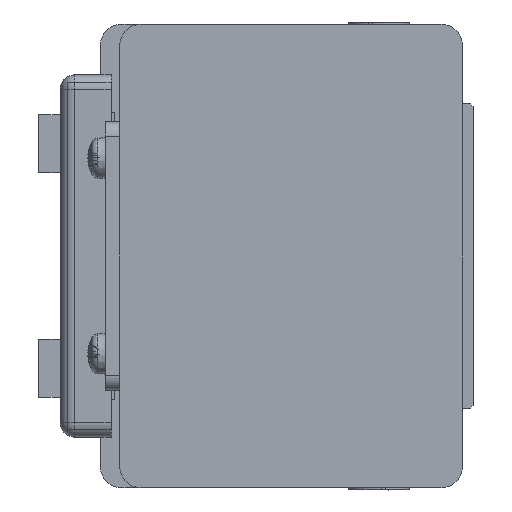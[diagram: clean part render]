
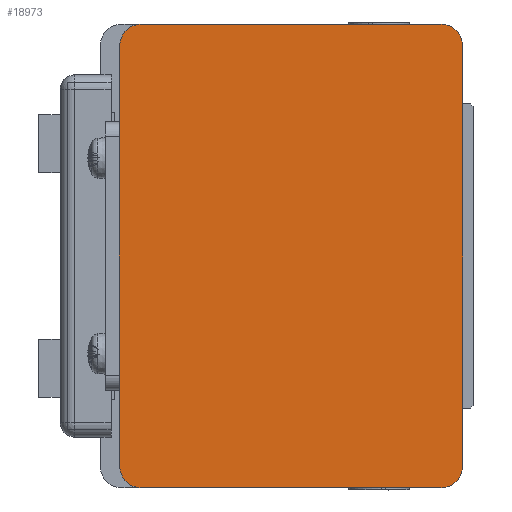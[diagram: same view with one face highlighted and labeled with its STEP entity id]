
A CAD part, left-side view. The second image highlights one B-rep face of the part: STEP entity #18973.
In plain terms, the highlighted planar face has unit normal (-1, 0, 0) as drawn and (0, 0, -1) by its records, which use the part's own axes.
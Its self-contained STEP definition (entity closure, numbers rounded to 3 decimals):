
#779=LINE('',#26803,#2431);
#794=LINE('',#26845,#2446);
#839=LINE('',#26954,#2491);
#861=LINE('',#27023,#2513);
#874=LINE('',#27058,#2526);
#875=LINE('',#27061,#2527);
#876=LINE('',#27062,#2528);
#877=LINE('',#27067,#2529);
#2431=VECTOR('',#21905,19.);
#2446=VECTOR('',#21938,41.3);
#2491=VECTOR('',#22027,41.3);
#2513=VECTOR('',#22087,19.);
#2526=VECTOR('',#22122,0.1);
#2527=VECTOR('',#22125,20.);
#2528=VECTOR('',#22126,0.1);
#2529=VECTOR('',#22131,58.);
#4236=PLANE('',#20211);
#5056=FACE_OUTER_BOUND('',#6172,.T.);
#6172=EDGE_LOOP('',(#12758,#12759,#12760,#12761,#12762,#12763,#12764,#12765,
#12766,#12767,#12768,#12769));
#7420=CIRCLE('',#20212,3.);
#7421=CIRCLE('',#20213,3.);
#7422=CIRCLE('',#20214,3.);
#7423=CIRCLE('',#20215,3.);
#7973=VERTEX_POINT('',#26800);
#7974=VERTEX_POINT('',#26802);
#7991=VERTEX_POINT('',#26842);
#7992=VERTEX_POINT('',#26844);
#8033=VERTEX_POINT('',#26951);
#8034=VERTEX_POINT('',#26953);
#8061=VERTEX_POINT('',#27020);
#8062=VERTEX_POINT('',#27022);
#8073=VERTEX_POINT('',#27056);
#8074=VERTEX_POINT('',#27060);
#8075=VERTEX_POINT('',#27064);
#8076=VERTEX_POINT('',#27066);
#9830=EDGE_CURVE('',#7974,#7973,#779,.T.);
#9851=EDGE_CURVE('',#7992,#7991,#794,.T.);
#9906=EDGE_CURVE('',#8034,#8033,#839,.T.);
#9940=EDGE_CURVE('',#8062,#8061,#861,.T.);
#9959=EDGE_CURVE('',#8073,#7973,#874,.T.);
#9960=EDGE_CURVE('',#8074,#8073,#875,.T.);
#9961=EDGE_CURVE('',#8062,#8074,#876,.T.);
#9962=EDGE_CURVE('',#8061,#8034,#7420,.T.);
#9963=EDGE_CURVE('',#8033,#8075,#7421,.T.);
#9964=EDGE_CURVE('',#8075,#8076,#877,.T.);
#9965=EDGE_CURVE('',#8076,#7992,#7422,.T.);
#9966=EDGE_CURVE('',#7991,#7974,#7423,.T.);
#12758=ORIENTED_EDGE('',*,*,#9830,.T.);
#12759=ORIENTED_EDGE('',*,*,#9959,.F.);
#12760=ORIENTED_EDGE('',*,*,#9960,.F.);
#12761=ORIENTED_EDGE('',*,*,#9961,.F.);
#12762=ORIENTED_EDGE('',*,*,#9940,.T.);
#12763=ORIENTED_EDGE('',*,*,#9962,.T.);
#12764=ORIENTED_EDGE('',*,*,#9906,.T.);
#12765=ORIENTED_EDGE('',*,*,#9963,.T.);
#12766=ORIENTED_EDGE('',*,*,#9964,.T.);
#12767=ORIENTED_EDGE('',*,*,#9965,.T.);
#12768=ORIENTED_EDGE('',*,*,#9851,.T.);
#12769=ORIENTED_EDGE('',*,*,#9966,.T.);
#18973=ADVANCED_FACE('',(#5056),#4236,.F.);
#20211=AXIS2_PLACEMENT_3D('',#27059,#22123,#22124);
#20212=AXIS2_PLACEMENT_3D('',#27063,#22127,#22128);
#20213=AXIS2_PLACEMENT_3D('',#27065,#22129,#22130);
#20214=AXIS2_PLACEMENT_3D('',#27068,#22132,#22133);
#20215=AXIS2_PLACEMENT_3D('',#27069,#22134,#22135);
#21905=DIRECTION('',(1.,0.,0.));
#21938=DIRECTION('',(0.,1.,0.));
#22027=DIRECTION('',(0.,-1.,0.));
#22087=DIRECTION('',(1.,0.,0.));
#22122=DIRECTION('',(0.,-1.,0.));
#22123=DIRECTION('center_axis',(0.,0.,1.));
#22124=DIRECTION('ref_axis',(1.,0.,0.));
#22125=DIRECTION('',(-1.,0.,0.));
#22126=DIRECTION('',(0.,1.,0.));
#22127=DIRECTION('center_axis',(0.,0.,-1.));
#22128=DIRECTION('ref_axis',(-1.,0.,0.));
#22129=DIRECTION('center_axis',(0.,0.,-1.));
#22130=DIRECTION('ref_axis',(0.,1.,0.));
#22131=DIRECTION('',(-1.,0.,0.));
#22132=DIRECTION('center_axis',(0.,0.,-1.));
#22133=DIRECTION('ref_axis',(1.,0.,0.));
#22134=DIRECTION('center_axis',(0.,0.,-1.));
#22135=DIRECTION('ref_axis',(0.,-1.,0.));
#26800=CARTESIAN_POINT('',(22.,48.8,-592.));
#26802=CARTESIAN_POINT('',(3.,48.8,-592.));
#26803=CARTESIAN_POINT('',(3.,48.8,-592.));
#26842=CARTESIAN_POINT('',(0.,45.8,-592.));
#26844=CARTESIAN_POINT('',(0.,4.5,-592.));
#26845=CARTESIAN_POINT('',(0.,4.5,-592.));
#26951=CARTESIAN_POINT('',(64.,4.5,-592.));
#26953=CARTESIAN_POINT('',(64.,45.8,-592.));
#26954=CARTESIAN_POINT('',(64.,45.8,-592.));
#27020=CARTESIAN_POINT('',(61.,48.8,-592.));
#27022=CARTESIAN_POINT('',(42.,48.8,-592.));
#27023=CARTESIAN_POINT('',(42.,48.8,-592.));
#27056=CARTESIAN_POINT('',(22.,48.9,-592.));
#27058=CARTESIAN_POINT('',(22.,48.9,-592.));
#27059=CARTESIAN_POINT('Origin',(32.,25.15,-592.));
#27060=CARTESIAN_POINT('',(42.,48.9,-592.));
#27061=CARTESIAN_POINT('',(42.,48.9,-592.));
#27062=CARTESIAN_POINT('',(42.,48.8,-592.));
#27063=CARTESIAN_POINT('Origin',(61.,45.8,-592.));
#27064=CARTESIAN_POINT('',(61.,1.5,-592.));
#27065=CARTESIAN_POINT('Origin',(61.,4.5,-592.));
#27066=CARTESIAN_POINT('',(3.,1.5,-592.));
#27067=CARTESIAN_POINT('',(61.,1.5,-592.));
#27068=CARTESIAN_POINT('Origin',(3.,4.5,-592.));
#27069=CARTESIAN_POINT('Origin',(3.,45.8,-592.));
